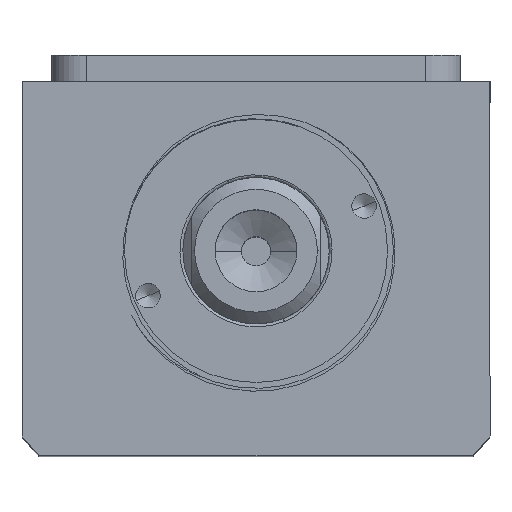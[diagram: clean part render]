
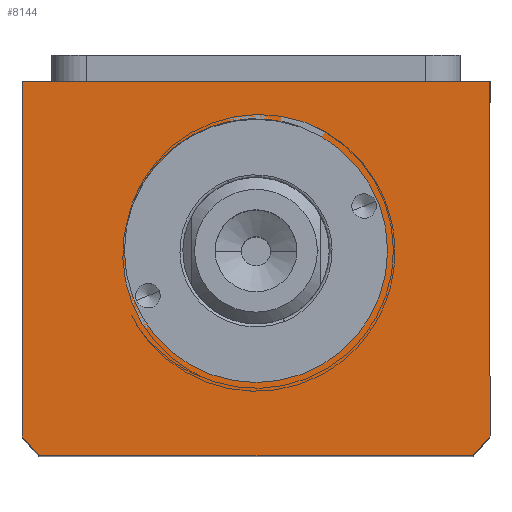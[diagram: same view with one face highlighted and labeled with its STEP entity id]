
A CAD part, top view. The second image highlights one B-rep face of the part: STEP entity #8144.
In plain terms, the highlighted planar face has unit normal (0, 0, 1).
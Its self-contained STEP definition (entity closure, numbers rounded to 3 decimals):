
#33 = CARTESIAN_POINT ( 'NONE',  ( -40., -28.639, 120. ) ) ;
#74 = DIRECTION ( 'NONE',  ( 0., 0., 1. ) ) ;
#190 = ORIENTED_EDGE ( 'NONE', *, *, #7901, .T. ) ;
#215 = FACE_OUTER_BOUND ( 'NONE', #999, .T. ) ;
#443 = VECTOR ( 'NONE', #5361, 1000. ) ;
#767 = CARTESIAN_POINT ( 'NONE',  ( 22.5, 3., 120. ) ) ;
#999 = EDGE_LOOP ( 'NONE', ( #8153, #10281, #4136, #8387, #190, #4373 ) ) ;
#1009 = DIRECTION ( 'NONE',  ( -1., 0., 0. ) ) ;
#1110 = LINE ( 'NONE', #9751, #9331 ) ;
#1465 = CIRCLE ( 'NONE', #5545, 51. ) ;
#1519 = CIRCLE ( 'NONE', #6554, 51. ) ;
#1553 = VERTEX_POINT ( 'NONE', #9449 ) ;
#1924 = CARTESIAN_POINT ( 'NONE',  ( -37.094, -32., 120. ) ) ;
#1988 = CARTESIAN_POINT ( 'NONE',  ( 0., 3., 120. ) ) ;
#2160 = CARTESIAN_POINT ( 'NONE',  ( -40., -32., 120. ) ) ;
#2566 = VERTEX_POINT ( 'NONE', #6614 ) ;
#2777 = DIRECTION ( 'NONE',  ( 1., 0., 0. ) ) ;
#3008 = AXIS2_PLACEMENT_3D ( 'NONE', #1988, #7559, #2777 ) ;
#3044 = LINE ( 'NONE', #2160, #443 ) ;
#3089 = VERTEX_POINT ( 'NONE', #9821 ) ;
#3228 = DIRECTION ( 'NONE',  ( 0., 0., 1. ) ) ;
#3881 = ORIENTED_EDGE ( 'NONE', *, *, #9190, .F. ) ;
#3899 = CARTESIAN_POINT ( 'NONE',  ( 0., 0., 120. ) ) ;
#4073 = CARTESIAN_POINT ( 'NONE',  ( 0., 3., 120. ) ) ;
#4136 = ORIENTED_EDGE ( 'NONE', *, *, #8077, .T. ) ;
#4263 = CARTESIAN_POINT ( 'NONE',  ( 0., 3., 120. ) ) ;
#4373 = ORIENTED_EDGE ( 'NONE', *, *, #5367, .T. ) ;
#4514 = DIRECTION ( 'NONE',  ( 0., -1., 0. ) ) ;
#4516 = EDGE_LOOP ( 'NONE', ( #3881, #5994 ) ) ;
#4742 = AXIS2_PLACEMENT_3D ( 'NONE', #4263, #9870, #5073 ) ;
#4807 = CARTESIAN_POINT ( 'NONE',  ( 0., 3., 120. ) ) ;
#4854 = VERTEX_POINT ( 'NONE', #6163 ) ;
#4867 = VECTOR ( 'NONE', #4514, 1000. ) ;
#4876 = DIRECTION ( 'NONE',  ( 1., 0., 0. ) ) ;
#4896 = VERTEX_POINT ( 'NONE', #767 ) ;
#5073 = DIRECTION ( 'NONE',  ( 1., 0., 0. ) ) ;
#5356 = LINE ( 'NONE', #6899, #4867 ) ;
#5361 = DIRECTION ( 'NONE',  ( 1., 0., 0. ) ) ;
#5367 = EDGE_CURVE ( 'NONE', #6747, #4854, #1110, .T. ) ;
#5545 = AXIS2_PLACEMENT_3D ( 'NONE', #4073, #9683, #4876 ) ;
#5618 = DIRECTION ( 'NONE',  ( 1., 0., 0. ) ) ;
#5994 = ORIENTED_EDGE ( 'NONE', *, *, #8385, .F. ) ;
#6091 = EDGE_CURVE ( 'NONE', #6964, #6604, #1465, .T. ) ;
#6163 = CARTESIAN_POINT ( 'NONE',  ( -40., 32., 120. ) ) ;
#6554 = AXIS2_PLACEMENT_3D ( 'NONE', #4807, #74, #5618 ) ;
#6604 = VERTEX_POINT ( 'NONE', #1924 ) ;
#6614 = CARTESIAN_POINT ( 'NONE',  ( 40., -28.639, 120. ) ) ;
#6747 = VERTEX_POINT ( 'NONE', #9400 ) ;
#6899 = CARTESIAN_POINT ( 'NONE',  ( -40., 32., 120. ) ) ;
#6964 = VERTEX_POINT ( 'NONE', #33 ) ;
#7306 = VECTOR ( 'NONE', #9066, 1000. ) ;
#7559 = DIRECTION ( 'NONE',  ( 0., 0., 1. ) ) ;
#7901 = EDGE_CURVE ( 'NONE', #2566, #6747, #9440, .T. ) ;
#8010 = PLANE ( 'NONE',  #9102 ) ;
#8077 = EDGE_CURVE ( 'NONE', #6604, #1553, #3044, .T. ) ;
#8144 = ADVANCED_FACE ( 'NONE', ( #9564, #215 ), #8010, .T. ) ;
#8153 = ORIENTED_EDGE ( 'NONE', *, *, #8822, .T. ) ;
#8385 = EDGE_CURVE ( 'NONE', #3089, #4896, #8812, .T. ) ;
#8387 = ORIENTED_EDGE ( 'NONE', *, *, #8997, .T. ) ;
#8812 = CIRCLE ( 'NONE', #3008, 22.5 ) ;
#8816 = DIRECTION ( 'NONE',  ( 1., 0., 0. ) ) ;
#8822 = EDGE_CURVE ( 'NONE', #4854, #6964, #5356, .T. ) ;
#8997 = EDGE_CURVE ( 'NONE', #1553, #2566, #1519, .T. ) ;
#9066 = DIRECTION ( 'NONE',  ( 0., 1., 0. ) ) ;
#9102 = AXIS2_PLACEMENT_3D ( 'NONE', #3899, #3228, #8816 ) ;
#9190 = EDGE_CURVE ( 'NONE', #4896, #3089, #9864, .T. ) ;
#9331 = VECTOR ( 'NONE', #1009, 1000. ) ;
#9400 = CARTESIAN_POINT ( 'NONE',  ( 40., 32., 120. ) ) ;
#9440 = LINE ( 'NONE', #9828, #7306 ) ;
#9449 = CARTESIAN_POINT ( 'NONE',  ( 37.094, -32., 120. ) ) ;
#9564 = FACE_BOUND ( 'NONE', #4516, .T. ) ;
#9683 = DIRECTION ( 'NONE',  ( 0., 0., 1. ) ) ;
#9751 = CARTESIAN_POINT ( 'NONE',  ( -40., 32., 120. ) ) ;
#9821 = CARTESIAN_POINT ( 'NONE',  ( -22.5, 3., 120. ) ) ;
#9828 = CARTESIAN_POINT ( 'NONE',  ( 40., 32., 120. ) ) ;
#9864 = CIRCLE ( 'NONE', #4742, 22.5 ) ;
#9870 = DIRECTION ( 'NONE',  ( 0., 0., 1. ) ) ;
#10281 = ORIENTED_EDGE ( 'NONE', *, *, #6091, .T. ) ;
